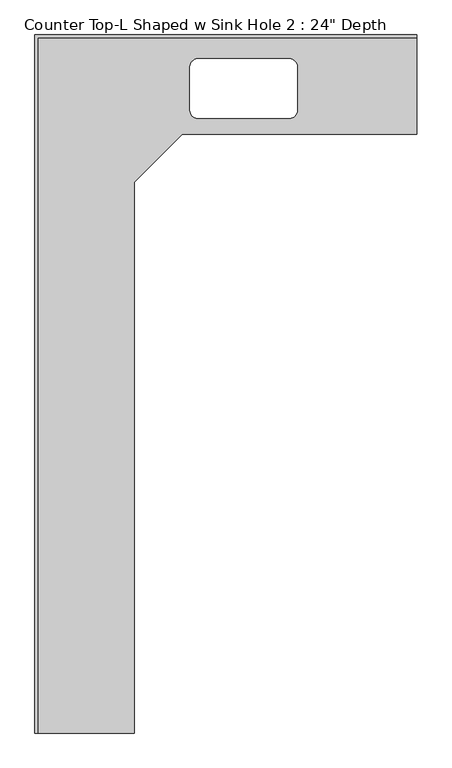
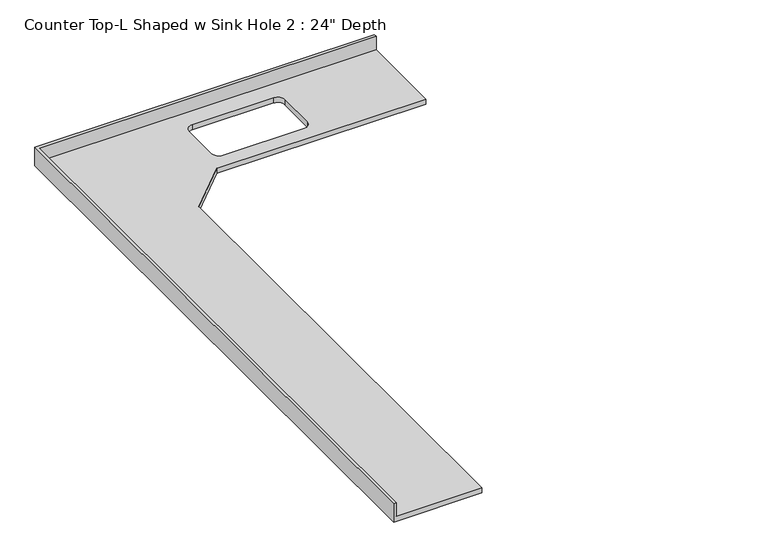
"""IFC4 building model written with IfcOpenShell, lengths in millimetres: furniture geometry."""

from ifc_helpers import new_model, si_unit, frame, origin, place, context, project, spatial, polyline, circle_curve, source, transform, mapped, element, save
from ifc_brep_helpers import plane_surface, revolved_surface, advanced_brep


def furniture_f064a22f(model_context):
    return source(origin(), model_context, "Body", "AdvancedBrep", [
        advanced_brep(
        [(-565.4622951, -4460.2106207, 914.4), (-565.4622951, -939.8, 914.4), (-260.6622951, -635.0, 914.4), (1237.9377049, -635.0, 914.4), (1237.9377049, -19.05, 914.4), (-1181.4122951, -19.05, 914.4), (-1181.4122951, -4460.2106207, 914.4), (425.1377049, -152.4, 914.4), (475.9377049, -203.2, 914.4), (475.9377049, -482.6, 914.4), (425.1377049, -533.4, 914.4), (-159.0622951, -533.4, 914.4), (-209.8622951, -482.6, 914.4), (-209.8622951, -203.2, 914.4), (-159.0622951, -152.4, 914.4), (1237.9377049, 0.0, 876.3), (1237.9377049, -635.0, 876.3), (-260.6622951, -635.0, 876.3), (-565.4622951, -939.8, 876.3), (-565.4622951, -4460.2106207, 876.3), (-1200.4622951, -4460.2106207, 876.3), (-1200.4622951, 0.0, 876.3), (425.1377049, -152.4, 876.3), (-159.0622951, -152.4, 876.3), (-209.8622951, -203.2, 876.3), (-209.8622951, -482.6, 876.3), (-159.0622951, -533.4, 876.3), (425.1377049, -533.4, 876.3), (475.9377049, -482.6, 876.3), (475.9377049, -203.2, 876.3), (-1200.4622951, 0.0, 1016.0), (1237.9377049, 0.0, 1016.0), (-1200.4622951, -4460.2106207, 1016.0), (-1181.4122951, -4460.2106207, 1016.0), (1237.9377049, -19.05, 1016.0), (-1181.4122951, -19.05, 1016.0)],
        [
            (0, 1),
            (1, 2),
            (2, 3),
            (3, 4),
            (4, 5),
            (5, 6),
            (6, 0),
            (7, 8, circle_curve(frame((425.1377049, -203.2, 914.4), z_axis=(0.0, 0.0, -1.0), x_axis=(1.0, 0.0, 0.0)), 50.8)),
            (8, 9),
            (9, 10, circle_curve(frame((425.1377049, -482.6, 914.4), z_axis=(0.0, 0.0, -1.0), x_axis=(1.0, 0.0, 0.0)), 50.8)),
            (10, 11),
            (11, 12, circle_curve(frame((-159.0622951, -482.6, 914.4), z_axis=(0.0, 0.0, -1.0), x_axis=(1.0, 0.0, 0.0)), 50.8)),
            (12, 13),
            (13, 14, circle_curve(frame((-159.0622951, -203.2, 914.4), z_axis=(0.0, 0.0, -1.0), x_axis=(1.0, 0.0, 0.0)), 50.8)),
            (14, 7),
            (15, 16),
            (16, 17),
            (17, 18),
            (18, 19),
            (19, 20),
            (20, 21),
            (21, 15),
            (22, 23),
            (23, 24, circle_curve(frame((-159.0622951, -203.2, 876.3), z_axis=(0.0, 0.0, 1.0), x_axis=(1.0, 0.0, 0.0)), 50.8)),
            (24, 25),
            (25, 26, circle_curve(frame((-159.0622951, -482.6, 876.3), z_axis=(0.0, 0.0, 1.0), x_axis=(1.0, 0.0, 0.0)), 50.8)),
            (26, 27),
            (27, 28, circle_curve(frame((425.1377049, -482.6, 876.3), z_axis=(0.0, 0.0, 1.0), x_axis=(1.0, 0.0, 0.0)), 50.8)),
            (28, 29),
            (29, 22, circle_curve(frame((425.1377049, -203.2, 876.3), z_axis=(0.0, 0.0, 1.0), x_axis=(1.0, 0.0, 0.0)), 50.8)),
            (21, 30),
            (30, 31),
            (31, 15),
            (20, 32),
            (32, 30),
            (19, 0),
            (6, 33),
            (33, 32),
            (18, 1),
            (17, 2),
            (16, 3),
            (31, 34),
            (34, 4),
            (7, 22),
            (29, 8),
            (28, 9),
            (27, 10),
            (26, 11),
            (25, 12),
            (24, 13),
            (23, 14),
            (33, 35),
            (35, 34),
            (35, 5),
        ],
        [
            plane_surface(frame((-1200.4622951, 0.0, 914.4), z_axis=(0.0, 0.0, 1.0), x_axis=(-1.0, 0.0, 0.0))),
            plane_surface(frame((-1200.4622951, 0.0, 876.3), z_axis=(0.0, 0.0, -1.0), x_axis=(1.0, 0.0, 0.0))),
            plane_surface(frame((1237.9377049, 0.0, 914.4), z_axis=(0.0, 1.0, 0.0), x_axis=(0.0, 0.0, -1.0))),
            plane_surface(frame((-1200.4622951, 0.0, 914.4), z_axis=(-1.0, 0.0, 0.0), x_axis=(0.0, 0.0, -1.0))),
            plane_surface(frame((-1200.4622951, -4460.2106207, 914.4), z_axis=(0.0, -1.0, 0.0), x_axis=(0.0, 0.0, -1.0))),
            plane_surface(frame((-565.4622951, -4460.2106207, 914.4), z_axis=(1.0, 0.0, 0.0), x_axis=(0.0, 0.0, -1.0))),
            plane_surface(frame((-565.4622951, -939.8, 914.4), z_axis=(0.7071067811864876, -0.7071067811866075, 0.0), x_axis=(0.0, 0.0, -1.0))),
            plane_surface(frame((-260.6622951, -635.0, 914.4), z_axis=(0.0, -1.0, 0.0), x_axis=(0.0, 0.0, -1.0))),
            plane_surface(frame((1237.9377049, -635.0, 914.4), z_axis=(1.0, 0.0, 0.0), x_axis=(0.0, 0.0, -1.0))),
            revolved_surface(polyline([(475.9377049, -203.2, 876.3), (475.9377049, -203.2, 914.4)]), (425.1377049, -203.2, 0.0), (0.0, 0.0, -1.0)),
            plane_surface(frame((475.9377049, -203.2, 914.4), z_axis=(-1.0, 0.0, 0.0), x_axis=(0.0, 0.0, -1.0))),
            revolved_surface(polyline([(475.9377049, -482.6, 876.3), (475.9377049, -482.6, 914.4)]), (425.1377049, -482.6, 0.0), (0.0, 0.0, -1.0)),
            plane_surface(frame((425.1377049, -533.4, 914.4), z_axis=(0.0, 1.0, 0.0), x_axis=(0.0, 0.0, -1.0))),
            revolved_surface(polyline([(-108.2622951, -482.6, 876.3), (-108.2622951, -482.6, 914.4)]), (-159.0622951, -482.6, 0.0), (0.0, 0.0, -1.0)),
            plane_surface(frame((-209.8622951, -482.6, 914.4), z_axis=(1.0, 0.0, 0.0), x_axis=(0.0, 0.0, -1.0))),
            revolved_surface(polyline([(-108.2622951, -203.2, 876.3), (-108.2622951, -203.2, 914.4)]), (-159.0622951, -203.2, 0.0), (0.0, 0.0, -1.0)),
            plane_surface(frame((-159.0622951, -152.4, 914.4), z_axis=(0.0, -1.0, 0.0), x_axis=(0.0, 0.0, -1.0))),
            plane_surface(frame((-1200.4622951, 0.0, 1016.0), z_axis=(0.0, 0.0, 1.0), x_axis=(0.0, -1.0, 0.0))),
            plane_surface(frame((-1200.4622951, -19.05, 1016.0), z_axis=(0.0, -1.0, 0.0), x_axis=(0.0, 0.0, -1.0))),
            plane_surface(frame((-1181.4122951, -4460.2106207, 1016.0), z_axis=(1.0, 0.0, 0.0), x_axis=(0.0, 0.0, -1.0))),
        ],
        [
            (0, [[1, 2, 3, 4, 5, 6, 7], [8, 9, 10, 11, 12, 13, 14, 15]]),
            (1, [[16, 17, 18, 19, 20, 21, 22], [23, 24, 25, 26, 27, 28, 29, 30]]),
            (2, [[-22, 31, 32, 33]]),
            (3, [[-21, 34, 35, -31]]),
            (4, [[-34, -20, 36, -7, 37, 38]]),
            (5, [[-1, -36, -19, 39]]),
            (6, [[-2, -39, -18, 40]]),
            (7, [[-3, -40, -17, 41]]),
            (8, [[-16, -33, 42, 43, -4, -41]]),
            (9, [[-8, 44, -30, 45]]),
            (10, [[-9, -45, -29, 46]]),
            (11, [[-10, -46, -28, 47]]),
            (12, [[-11, -47, -27, 48]]),
            (13, [[-12, -48, -26, 49]]),
            (14, [[-13, -49, -25, 50]]),
            (15, [[-14, -50, -24, 51]]),
            (16, [[-15, -51, -23, -44]]),
            (17, [[-35, -38, 52, 53, -42, -32]]),
            (18, [[-43, -53, 54, -5]]),
            (19, [[-52, -37, -6, -54]]),
        ],
    ),
    ])


if __name__ == "__main__":
    model = new_model("IFC4")
    model_context = context("Model", 3, world=origin())
    ifc_project = project(units=[si_unit("LENGTHUNIT", "METRE", prefix="MILLI")], contexts=[model_context])
    site = spatial("IfcSite", under=ifc_project)
    building = spatial("IfcBuilding", under=site)
    placement = place(None, origin())
    furniture_shape = furniture_f064a22f(model_context)
    element("IfcFurniture", 1, ObjectType="Counter Top-L Shaped w Sink Hole 2 : 24\" Depth", at=placement, inside=building, context=model_context, shape_type="MappedRepresentation", body=[
        mapped(furniture_shape, transform((0.0, 0.0, 0.0), x_axis=(1.0, 0.0, 0.0), y_axis=(0.0, 1.0, 0.0), z_axis=(0.0, 0.0, 1.0))),
    ])
    save(model, "model.ifc")
